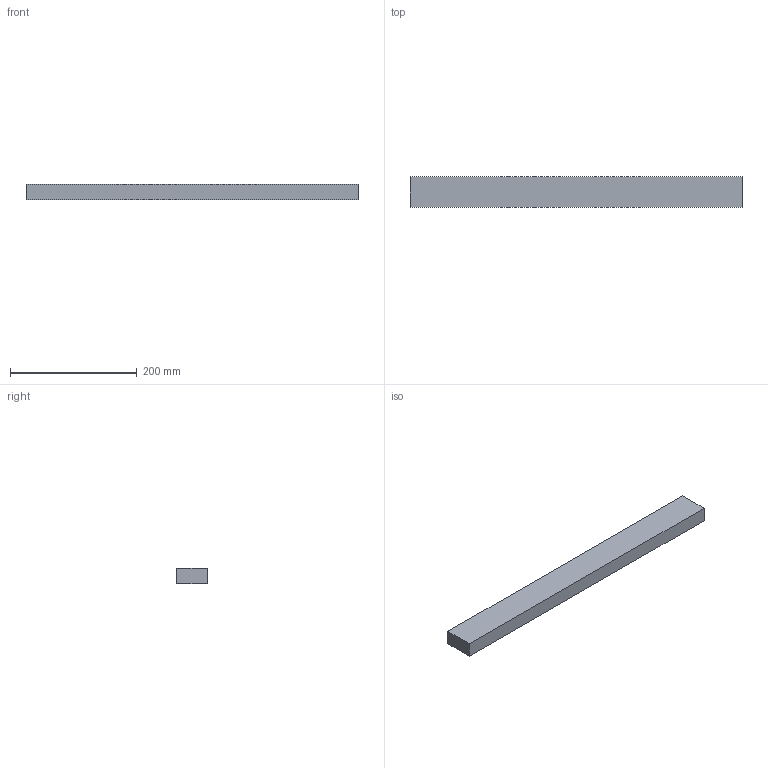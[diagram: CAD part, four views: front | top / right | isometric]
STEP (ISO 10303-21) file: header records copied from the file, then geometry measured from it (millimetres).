
FILE_DESCRIPTION (( 'STEP AP203' ), '1' );
FILE_NAME ('Tasseau_524_Cadre_Deflecteur.STEP', '2026-06-24T07:29:50', ( '' ), ( '' ), 'SwSTEP 2.0', 'SolidWorks 2024', '' );
FILE_SCHEMA (( 'CONFIG_CONTROL_DESIGN' ));
Length unit declared in the file: millimetre
Products named in the file (1): Tasseau_524_Cadre_Deflecteur
Bounding box: 524 x 48 x 24 mm (x, y, z)
Volume: 603648 mm3; surface area: 77760 mm2
Topology: 1 solids, 1 shells, 6 faces, 12 edges, 8 vertices
Faces by surface type: plane 6
Entity records: 231 total; most frequent: CARTESIAN_POINT 27, DIRECTION 26, ORIENTED_EDGE 24, EDGE_CURVE 12, VECTOR 12, LINE 12, PERSON_AND_ORGANIZATION 8, VERTEX_POINT 8
